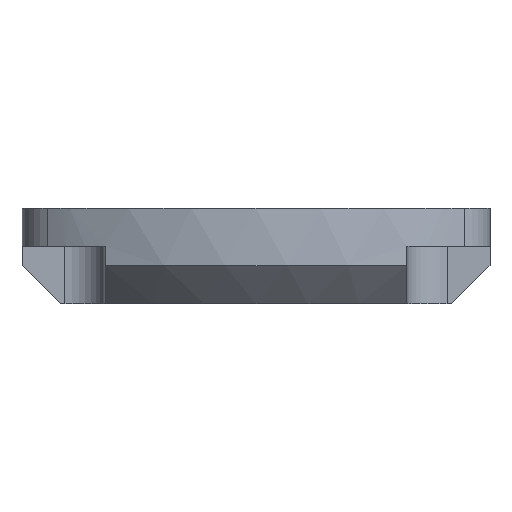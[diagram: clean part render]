
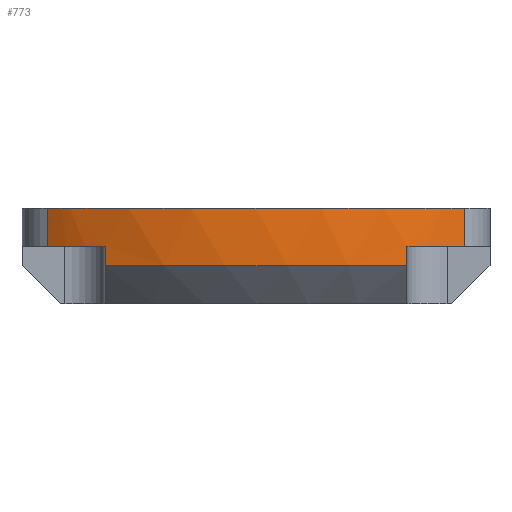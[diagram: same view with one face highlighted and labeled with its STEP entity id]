
A CAD part, left-side view. The second image highlights one B-rep face of the part: STEP entity #773.
In plain terms, the highlighted cylindrical face has radius 19.5 mm (diameter 39 mm), a partial arc.
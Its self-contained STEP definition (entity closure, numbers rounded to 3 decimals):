
#542=CARTESIAN_POINT('Axis2P3D Location',(0.,0.,-3.)) ;
#546=CARTESIAN_POINT('Vertex',(-17.828,7.9,-3.)) ;
#548=CARTESIAN_POINT('Vertex',(-17.828,-7.9,-3.)) ;
#674=CARTESIAN_POINT('Vertex',(-16.148,-10.932,0.)) ;
#677=CARTESIAN_POINT('Line Origine',(-16.148,-10.932,-2.5)) ;
#681=CARTESIAN_POINT('Vertex',(-16.148,-10.932,-2.)) ;
#696=CARTESIAN_POINT('Axis2P3D Location',(0.,0.,-2.)) ;
#701=CARTESIAN_POINT('Axis2P3D Location',(0.,0.,0.)) ;
#705=CARTESIAN_POINT('Vertex',(-16.887,-9.75,0.)) ;
#708=CARTESIAN_POINT('Axis2P3D Location',(0.,0.,0.)) ;
#712=CARTESIAN_POINT('Vertex',(-19.5,0.,0.)) ;
#715=CARTESIAN_POINT('Axis2P3D Location',(0.,0.,0.)) ;
#719=CARTESIAN_POINT('Vertex',(-16.887,9.75,0.)) ;
#722=CARTESIAN_POINT('Axis2P3D Location',(0.,0.,0.)) ;
#726=CARTESIAN_POINT('Vertex',(-16.148,10.932,0.)) ;
#729=CARTESIAN_POINT('Line Origine',(-16.148,10.932,-2.)) ;
#733=CARTESIAN_POINT('Vertex',(-16.148,10.932,-2.)) ;
#736=CARTESIAN_POINT('Axis2P3D Location',(0.,0.,-2.)) ;
#740=CARTESIAN_POINT('Vertex',(-17.828,7.9,-2.)) ;
#743=CARTESIAN_POINT('Line Origine',(-17.828,7.9,-2.)) ;
#748=CARTESIAN_POINT('Line Origine',(-17.828,-7.9,-2.)) ;
#752=CARTESIAN_POINT('Vertex',(-17.828,-7.9,-2.)) ;
#755=CARTESIAN_POINT('Axis2P3D Location',(0.,0.,-2.)) ;
#679=VECTOR('Line Direction',#678,1.) ;
#731=VECTOR('Line Direction',#730,1.) ;
#745=VECTOR('Line Direction',#744,1.) ;
#750=VECTOR('Line Direction',#749,1.) ;
#543=DIRECTION('Axis2P3D Direction',(0.,0.,1.)) ;
#678=DIRECTION('Vector Direction',(0.,0.,1.)) ;
#697=DIRECTION('Axis2P3D Direction',(0.,0.,-1.)) ;
#698=DIRECTION('Axis2P3D XDirection',(-0.778,-0.628,0.)) ;
#702=DIRECTION('Axis2P3D Direction',(0.,0.,-1.)) ;
#709=DIRECTION('Axis2P3D Direction',(0.,0.,-1.)) ;
#716=DIRECTION('Axis2P3D Direction',(0.,0.,-1.)) ;
#723=DIRECTION('Axis2P3D Direction',(0.,0.,-1.)) ;
#730=DIRECTION('Vector Direction',(0.,0.,-1.)) ;
#737=DIRECTION('Axis2P3D Direction',(0.,0.,-1.)) ;
#744=DIRECTION('Vector Direction',(0.,0.,-1.)) ;
#749=DIRECTION('Vector Direction',(0.,0.,-1.)) ;
#756=DIRECTION('Axis2P3D Direction',(0.,0.,-1.)) ;
#544=AXIS2_PLACEMENT_3D('Circle Axis2P3D',#542,#543,$) ;
#699=AXIS2_PLACEMENT_3D('Cylinder Axis2P3D',#696,#697,#698) ;
#703=AXIS2_PLACEMENT_3D('Circle Axis2P3D',#701,#702,$) ;
#710=AXIS2_PLACEMENT_3D('Circle Axis2P3D',#708,#709,$) ;
#717=AXIS2_PLACEMENT_3D('Circle Axis2P3D',#715,#716,$) ;
#724=AXIS2_PLACEMENT_3D('Circle Axis2P3D',#722,#723,$) ;
#738=AXIS2_PLACEMENT_3D('Circle Axis2P3D',#736,#737,$) ;
#757=AXIS2_PLACEMENT_3D('Circle Axis2P3D',#755,#756,$) ;
#680=LINE('Line',#677,#679) ;
#732=LINE('Line',#729,#731) ;
#746=LINE('Line',#743,#745) ;
#751=LINE('Line',#748,#750) ;
#545=CIRCLE('generated circle',#544,19.5) ;
#704=CIRCLE('generated circle',#703,19.5) ;
#711=CIRCLE('generated circle',#710,19.5) ;
#718=CIRCLE('generated circle',#717,19.5) ;
#725=CIRCLE('generated circle',#724,19.5) ;
#739=CIRCLE('generated circle',#738,19.5) ;
#758=CIRCLE('generated circle',#757,19.5) ;
#700=CYLINDRICAL_SURFACE('generated cylinder',#699,19.5) ;
#550=EDGE_CURVE('',#547,#549,#545,.T.) ;
#683=EDGE_CURVE('',#682,#675,#680,.T.) ;
#707=EDGE_CURVE('',#706,#675,#704,.F.) ;
#714=EDGE_CURVE('',#713,#706,#711,.F.) ;
#721=EDGE_CURVE('',#713,#720,#718,.T.) ;
#728=EDGE_CURVE('',#720,#727,#725,.T.) ;
#735=EDGE_CURVE('',#734,#727,#732,.F.) ;
#742=EDGE_CURVE('',#734,#741,#739,.F.) ;
#747=EDGE_CURVE('',#547,#741,#746,.F.) ;
#754=EDGE_CURVE('',#549,#753,#751,.F.) ;
#759=EDGE_CURVE('',#682,#753,#758,.T.) ;
#761=ORIENTED_EDGE('',*,*,#683,.T.) ;
#762=ORIENTED_EDGE('',*,*,#707,.F.) ;
#763=ORIENTED_EDGE('',*,*,#714,.F.) ;
#764=ORIENTED_EDGE('',*,*,#721,.T.) ;
#765=ORIENTED_EDGE('',*,*,#728,.T.) ;
#766=ORIENTED_EDGE('',*,*,#735,.F.) ;
#767=ORIENTED_EDGE('',*,*,#742,.T.) ;
#768=ORIENTED_EDGE('',*,*,#747,.F.) ;
#769=ORIENTED_EDGE('',*,*,#550,.T.) ;
#770=ORIENTED_EDGE('',*,*,#754,.T.) ;
#771=ORIENTED_EDGE('',*,*,#759,.F.) ;
#760=EDGE_LOOP('',(#761,#762,#763,#764,#765,#766,#767,#768,#769,#770,#771)) ;
#547=VERTEX_POINT('',#546) ;
#549=VERTEX_POINT('',#548) ;
#675=VERTEX_POINT('',#674) ;
#682=VERTEX_POINT('',#681) ;
#706=VERTEX_POINT('',#705) ;
#713=VERTEX_POINT('',#712) ;
#720=VERTEX_POINT('',#719) ;
#727=VERTEX_POINT('',#726) ;
#734=VERTEX_POINT('',#733) ;
#741=VERTEX_POINT('',#740) ;
#753=VERTEX_POINT('',#752) ;
#773=ADVANCED_FACE('\X2\FF8AFF9FFF70FF82\X0\ \X2\FF8EFF9EFF83FF9EFF68FF70\X0\',(#772),#700,.T.) ;
#772=FACE_OUTER_BOUND('',#760,.T.) ;
